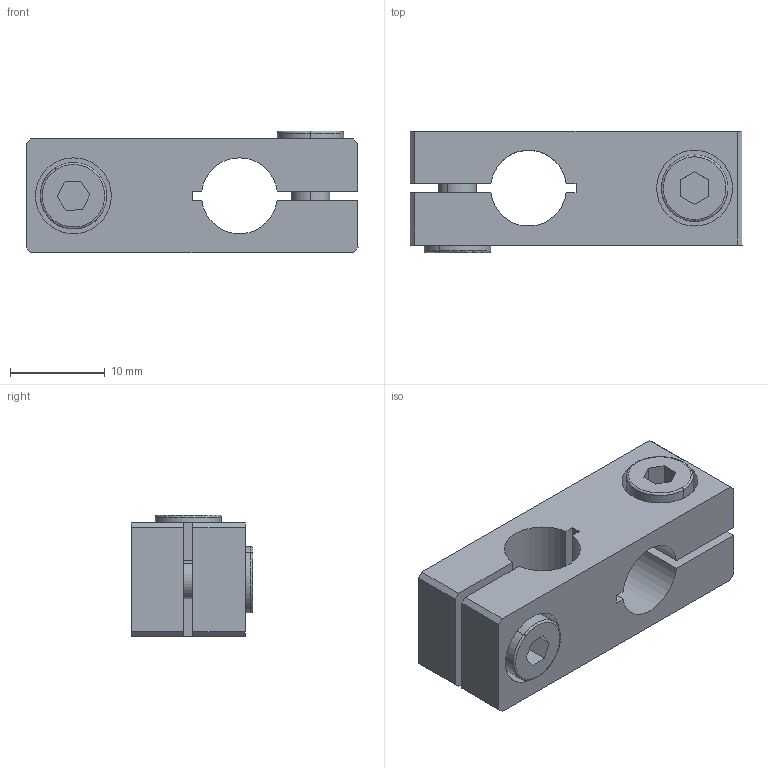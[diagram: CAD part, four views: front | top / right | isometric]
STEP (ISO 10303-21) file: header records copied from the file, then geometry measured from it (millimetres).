
FILE_DESCRIPTION (( 'STEP AP214' ), '1' );
FILE_NAME ('SMBT-0808.STEP', '2019-11-06T05:28:03', ( '微软用户' ), ( '微软中国' ), 'SwSTEP 2.0', 'SolidWorks 2016', '' );
FILE_SCHEMA (( 'AUTOMOTIVE_DESIGN' ));
Length unit declared in the file: millimetre
Products named in the file (1): SMBT-0808
Bounding box: 35 x 12.8 x 12.8 mm (x, y, z)
Volume: 3474.9 mm3; surface area: 3718.3 mm2
Topology: 5 solids, 5 shells, 473 faces, 1361 edges, 898 vertices
Faces by surface type: plane 432, cylinder 33, cone 4, bspline 4
Entity records: 21080 total; most frequent: CARTESIAN_POINT 2981, DIRECTION 2731, ORIENTED_EDGE 2722, EDGE_CURVE 1361, LINE 915, VECTOR 915, AXIS2_PLACEMENT_3D 908, VERTEX_POINT 898
